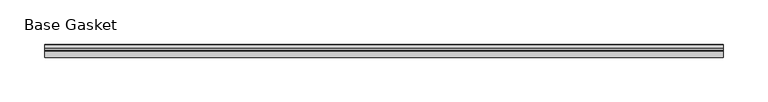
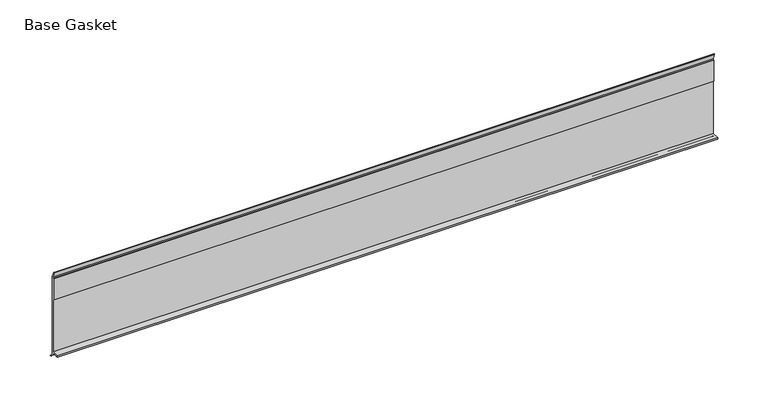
"""IFC4 building model written with IfcOpenShell, lengths in millimetres: furniture geometry, Gasket-Teknion-FHGB-AI_Healthcare-R2021 : Base Gasket."""

from ifc_helpers import new_model, si_unit, frame, origin, place, context, project, spatial, polyline, outline, extrude, source, transform, mapped, element, save


def base_gasket_5eed766a(model_context):
    return source(origin(), model_context, "Body", "SweptSolid", [
        extrude(outline(polyline([(3.7283812, 98.4568417), (3.7283812, 4.3498477), (7.4222115, 0.6560174), (7.8482342, 0.0), (6.8281054, 0.3520979), (2.2043812, 4.3498477), (2.1334222, 6.3818476), (-6.2405171, 6.3818476), (-6.2405171, 7.9398773), (2.2043812, 7.9398773), (2.2043812, 71.4693447), (1.4106313, 71.4693447), (1.4106313, 96.8693477), (2.2043812, 96.8693477), (2.2043812, 98.4568417), (0.6755308, 104.4162708), (0.6755308, 105.2002997), (1.1891543, 104.587663), (3.7283812, 98.4568417)])), frame((-1527.8982117, 0.0, 0.0), z_axis=(1.0, 0.0, 0.0), x_axis=(0.0, 1.0, 0.0)), (0.0, 0.0, 1.0), 756.2017997),
    ])


if __name__ == "__main__":
    model = new_model("IFC4")
    model_context = context("Model", 3, world=origin())
    ifc_project = project(units=[si_unit("LENGTHUNIT", "METRE", prefix="MILLI")], contexts=[model_context])
    site = spatial("IfcSite", under=ifc_project)
    building = spatial("IfcBuilding", under=site)
    placement = place(None, origin())
    base_gasket_shape = base_gasket_5eed766a(model_context)
    element("IfcFurniture", 1, ObjectType="Gasket-Teknion-FHGB-AI_Healthcare-R2021 : Base Gasket", at=placement, inside=building, context=model_context, shape_type="MappedRepresentation", body=[
        mapped(base_gasket_shape, transform((0.0, 0.0, 0.0), x_axis=(1.0, 0.0, 0.0), y_axis=(0.0, 1.0, 0.0), z_axis=(0.0, 0.0, 1.0))),
    ])
    save(model, "model.ifc")
